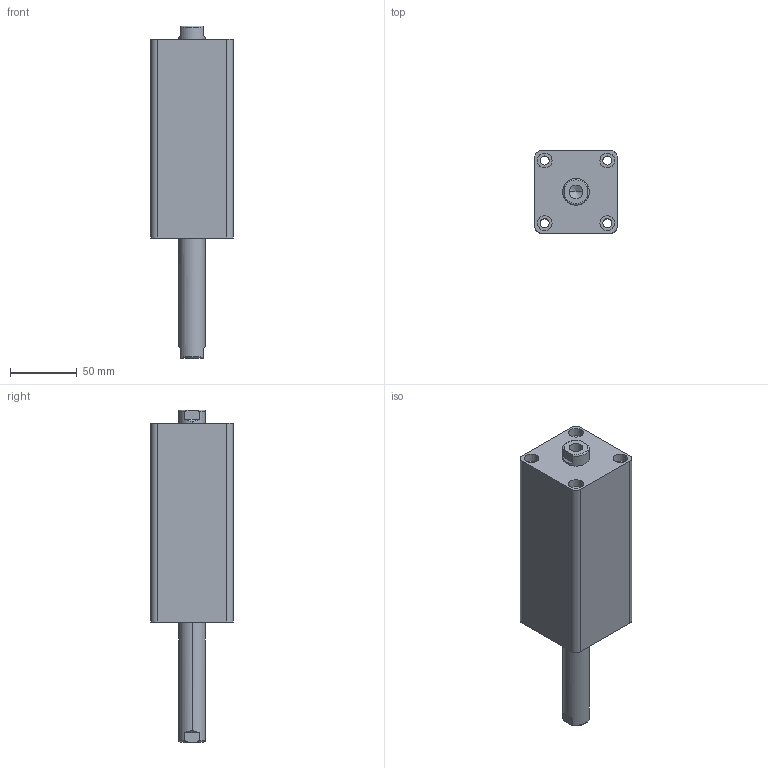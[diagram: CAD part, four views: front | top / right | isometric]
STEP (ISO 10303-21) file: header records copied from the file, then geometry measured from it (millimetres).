
FILE_DESCRIPTION (( 'STEP AP203' ), '1' );
FILE_NAME ('HTB-SW32-80N.STEP', '2019-10-07T08:58:50', ( '微软用户' ), ( '微软中国' ), 'SwSTEP 2.0', 'SolidWorks 2012', '' );
FILE_SCHEMA (( 'CONFIG_CONTROL_DESIGN' ));
Length unit declared in the file: millimetre
Products named in the file (3): HTB-SW32-80N; HTB-SW32-80N活塞杆; HTB-SW32-80掛极
Assembly tree (2 placements, depth 2):
  HTB-SW32-80N
    HTB-SW32-80掛极
    HTB-SW32-80N活塞杆
Bounding box: 62 x 62 x 249 mm (x, y, z)
Volume: 531913.2 mm3; surface area: 89340.9 mm2
Topology: 2 solids, 2 shells, 100 faces, 228 edges, 146 vertices
Faces by surface type: cylinder 48, plane 32, torus 12, cone 8
Entity records: 3237 total; most frequent: CARTESIAN_POINT 595, DIRECTION 542, ORIENTED_EDGE 448, AXIS2_PLACEMENT_3D 229, EDGE_CURVE 224, VERTEX_POINT 146, EDGE_LOOP 128, CIRCLE 124
